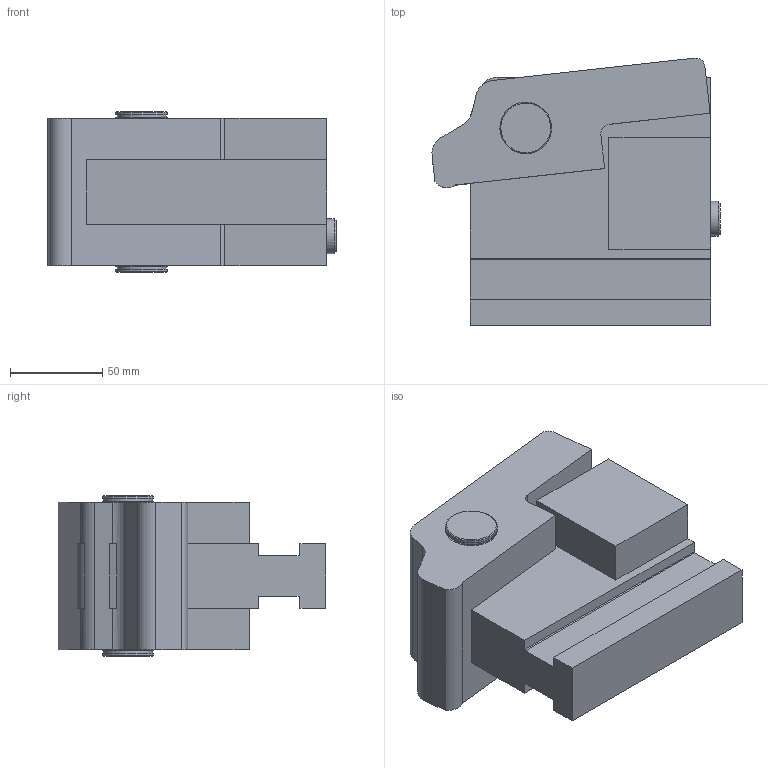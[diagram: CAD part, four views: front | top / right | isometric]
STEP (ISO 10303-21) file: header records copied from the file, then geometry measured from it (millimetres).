
FILE_DESCRIPTION(/* description */ (''),/* implementation_level */ '2;1');
FILE_NAME(/* name */ 'P:\Standard products\2. QDC Clamping Systems\11. ELY - Rocker Clamp\ELY Standard range\3d step files\ELY60_S (11-08-22).stp',/* time_stamp */ '2022-08-11T15:43:14+02:00',/* author */ ('schothorsth'),/* organization */ (''),/* preprocessor_version */ 'ST-DEVELOPER v17.2',/* originating_system */ 'Autodesk Inventor 2019',/* authorisation */ '');
FILE_SCHEMA (('AUTOMOTIVE_DESIGN { 1 0 10303 214 3 1 1 }'));
Length unit declared in the file: millimetre
Products named in the file (1): ELY60_S (11-08-22)
Bounding box: 155.8 x 144.8 x 87 mm (x, y, z)
Volume: 1041303.5 mm3; surface area: 88254.8 mm2
Topology: 1 solids, 1 shells, 70 faces, 192 edges, 131 vertices
Faces by surface type: plane 48, cylinder 19, cone 3
Full cylindrical faces by diameter (mm): 18.8 x1, 26.6 x2, 27.95 x4
Entity records: 2383 total; most frequent: CARTESIAN_POINT 394, DIRECTION 391, ORIENTED_EDGE 384, EDGE_CURVE 192, LINE 135, VECTOR 135, VERTEX_POINT 131, AXIS2_PLACEMENT_3D 128
